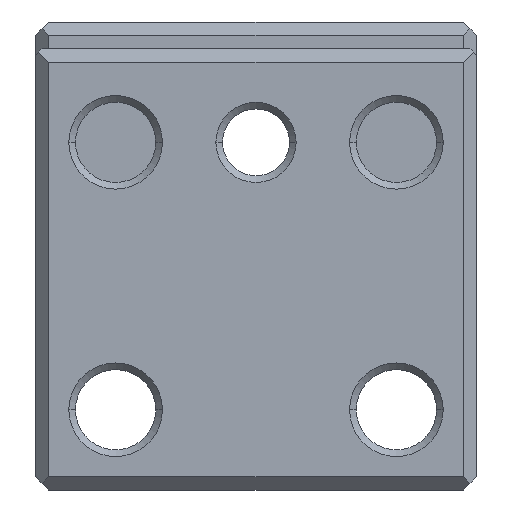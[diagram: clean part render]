
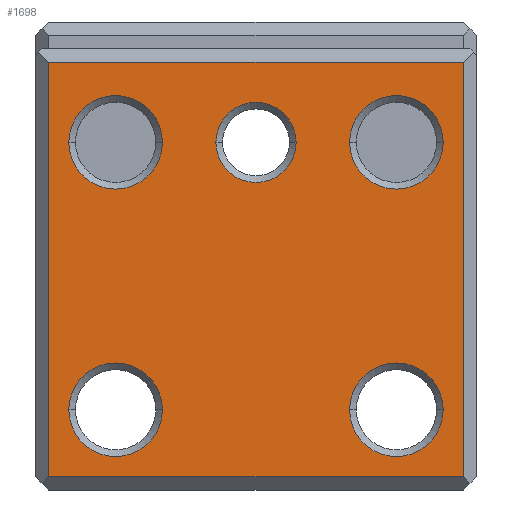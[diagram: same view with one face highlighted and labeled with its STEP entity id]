
A CAD part, front view. The second image highlights one B-rep face of the part: STEP entity #1698.
In plain terms, the highlighted planar face has unit normal (0, -1, 0).
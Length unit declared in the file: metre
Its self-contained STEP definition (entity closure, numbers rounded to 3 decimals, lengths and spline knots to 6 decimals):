
#1=CARTESIAN_POINT('',(-0.0105,0.,-0.0105));
#2=DIRECTION('',(0.,1.,0.));
#3=DIRECTION('',(-1.,0.,0.));
#4=AXIS2_PLACEMENT_3D('',#1,#2,#3);
#6=CARTESIAN_POINT('',(-0.0105,0.,-0.0105));
#7=DIRECTION('',(0.,1.,0.));
#8=DIRECTION('',(0.,0.,-1.));
#9=AXIS2_PLACEMENT_3D('',#6,#7,#8);
#11=CARTESIAN_POINT('',(-0.0105,0.,-0.0105));
#12=DIRECTION('',(0.,1.,0.));
#13=DIRECTION('',(1.,0.,0.));
#14=AXIS2_PLACEMENT_3D('',#11,#12,#13);
#16=CARTESIAN_POINT('',(-0.0105,0.,-0.0105));
#17=DIRECTION('',(0.,1.,0.));
#18=DIRECTION('',(0.,0.,1.));
#19=AXIS2_PLACEMENT_3D('',#16,#17,#18);
#21=CARTESIAN_POINT('',(-0.0105,0.,0.0095));
#22=DIRECTION('',(0.,1.,0.));
#23=DIRECTION('',(1.,0.,0.));
#24=AXIS2_PLACEMENT_3D('',#21,#22,#23);
#26=CARTESIAN_POINT('',(-0.0105,0.,0.0095));
#27=DIRECTION('',(0.,1.,0.));
#28=DIRECTION('',(0.,0.,1.));
#29=AXIS2_PLACEMENT_3D('',#26,#27,#28);
#31=CARTESIAN_POINT('',(-0.0105,0.,0.0095));
#32=DIRECTION('',(0.,1.,0.));
#33=DIRECTION('',(-1.,0.,0.));
#34=AXIS2_PLACEMENT_3D('',#31,#32,#33);
#36=CARTESIAN_POINT('',(-0.0105,0.,0.0095));
#37=DIRECTION('',(0.,1.,0.));
#38=DIRECTION('',(0.,0.,-1.));
#39=AXIS2_PLACEMENT_3D('',#36,#37,#38);
#41=CARTESIAN_POINT('',(0.0105,0.,-0.0105));
#42=DIRECTION('',(0.,1.,0.));
#43=DIRECTION('',(-1.,0.,0.));
#44=AXIS2_PLACEMENT_3D('',#41,#42,#43);
#46=CARTESIAN_POINT('',(0.0105,0.,-0.0105));
#47=DIRECTION('',(0.,1.,0.));
#48=DIRECTION('',(0.,0.,-1.));
#49=AXIS2_PLACEMENT_3D('',#46,#47,#48);
#51=CARTESIAN_POINT('',(0.0105,0.,-0.0105));
#52=DIRECTION('',(0.,1.,0.));
#53=DIRECTION('',(1.,0.,0.));
#54=AXIS2_PLACEMENT_3D('',#51,#52,#53);
#56=CARTESIAN_POINT('',(0.0105,0.,-0.0105));
#57=DIRECTION('',(0.,1.,0.));
#58=DIRECTION('',(0.,0.,1.));
#59=AXIS2_PLACEMENT_3D('',#56,#57,#58);
#61=CARTESIAN_POINT('',(0.0105,0.,0.0095));
#62=DIRECTION('',(0.,1.,0.));
#63=DIRECTION('',(-1.,0.,0.));
#64=AXIS2_PLACEMENT_3D('',#61,#62,#63);
#66=CARTESIAN_POINT('',(0.0105,0.,0.0095));
#67=DIRECTION('',(0.,1.,0.));
#68=DIRECTION('',(0.,0.,-1.));
#69=AXIS2_PLACEMENT_3D('',#66,#67,#68);
#71=CARTESIAN_POINT('',(0.0105,0.,0.0095));
#72=DIRECTION('',(0.,1.,0.));
#73=DIRECTION('',(1.,0.,0.));
#74=AXIS2_PLACEMENT_3D('',#71,#72,#73);
#76=CARTESIAN_POINT('',(0.0105,0.,0.0095));
#77=DIRECTION('',(0.,1.,0.));
#78=DIRECTION('',(0.,0.,1.));
#79=AXIS2_PLACEMENT_3D('',#76,#77,#78);
#81=CARTESIAN_POINT('',(0.,0.,0.0095));
#82=DIRECTION('',(0.,1.,0.));
#83=DIRECTION('',(-1.,0.,0.));
#84=AXIS2_PLACEMENT_3D('',#81,#82,#83);
#86=CARTESIAN_POINT('',(0.,0.,0.0095));
#87=DIRECTION('',(0.,1.,0.));
#88=DIRECTION('',(0.,0.,-1.));
#89=AXIS2_PLACEMENT_3D('',#86,#87,#88);
#91=CARTESIAN_POINT('',(0.,0.,0.0095));
#92=DIRECTION('',(0.,1.,0.));
#93=DIRECTION('',(1.,0.,0.));
#94=AXIS2_PLACEMENT_3D('',#91,#92,#93);
#96=CARTESIAN_POINT('',(0.,0.,0.0095));
#97=DIRECTION('',(0.,1.,0.));
#98=DIRECTION('',(0.,0.,1.));
#99=AXIS2_PLACEMENT_3D('',#96,#97,#98);
#878=DIRECTION('',(0.,0.,1.));
#879=VECTOR('',#878,0.031);
#880=CARTESIAN_POINT('',(-0.0155,0.,-0.0155));
#881=LINE('',#880,#879);
#1216=DIRECTION('',(0.,0.,-1.));
#1217=VECTOR('',#1216,0.031);
#1218=CARTESIAN_POINT('',(0.0155,0.,0.0155));
#1219=LINE('',#1218,#1217);
#1228=DIRECTION('',(1.,0.,0.));
#1229=VECTOR('',#1228,0.031);
#1230=CARTESIAN_POINT('',(-0.0155,0.,0.0155));
#1231=LINE('',#1230,#1229);
#1236=DIRECTION('',(-1.,0.,0.));
#1237=VECTOR('',#1236,0.031);
#1238=CARTESIAN_POINT('',(0.0155,0.,-0.0155));
#1239=LINE('',#1238,#1237);
#1253=CARTESIAN_POINT('',(0.0155,0.,0.0155));
#1254=CARTESIAN_POINT('',(0.0155,0.,-0.0155));
#1255=VERTEX_POINT('',#1253);
#1256=VERTEX_POINT('',#1254);
#1257=CARTESIAN_POINT('',(-0.0155,0.,-0.0155));
#1258=VERTEX_POINT('',#1257);
#1259=CARTESIAN_POINT('',(-0.0155,0.,0.0155));
#1260=VERTEX_POINT('',#1259);
#1261=CARTESIAN_POINT('',(0.003,0.,0.0095));
#1262=CARTESIAN_POINT('',(0.,0.,0.0065));
#1263=VERTEX_POINT('',#1261);
#1264=VERTEX_POINT('',#1262);
#1265=CARTESIAN_POINT('',(-0.003,0.,0.0095));
#1266=VERTEX_POINT('',#1265);
#1267=CARTESIAN_POINT('',(0.,0.,0.0125));
#1268=VERTEX_POINT('',#1267);
#1269=CARTESIAN_POINT('',(0.014,0.,0.0095));
#1270=CARTESIAN_POINT('',(0.0105,0.,0.006));
#1271=VERTEX_POINT('',#1269);
#1272=VERTEX_POINT('',#1270);
#1273=CARTESIAN_POINT('',(0.007,0.,0.0095));
#1274=VERTEX_POINT('',#1273);
#1275=CARTESIAN_POINT('',(0.0105,0.,0.013));
#1276=VERTEX_POINT('',#1275);
#1277=CARTESIAN_POINT('',(0.014,0.,-0.0105));
#1278=CARTESIAN_POINT('',(0.0105,0.,-0.014));
#1279=VERTEX_POINT('',#1277);
#1280=VERTEX_POINT('',#1278);
#1281=CARTESIAN_POINT('',(0.007,0.,-0.0105));
#1282=VERTEX_POINT('',#1281);
#1283=CARTESIAN_POINT('',(0.0105,0.,-0.007));
#1284=VERTEX_POINT('',#1283);
#1285=CARTESIAN_POINT('',(-0.014,0.,0.0095));
#1286=CARTESIAN_POINT('',(-0.0105,0.,0.013));
#1287=VERTEX_POINT('',#1285);
#1288=VERTEX_POINT('',#1286);
#1289=CARTESIAN_POINT('',(-0.007,0.,0.0095));
#1290=VERTEX_POINT('',#1289);
#1291=CARTESIAN_POINT('',(-0.0105,0.,0.006));
#1292=VERTEX_POINT('',#1291);
#1293=CARTESIAN_POINT('',(-0.007,0.,-0.0105));
#1294=CARTESIAN_POINT('',(-0.0105,0.,-0.014));
#1295=VERTEX_POINT('',#1293);
#1296=VERTEX_POINT('',#1294);
#1297=CARTESIAN_POINT('',(-0.014,0.,-0.0105));
#1298=VERTEX_POINT('',#1297);
#1299=CARTESIAN_POINT('',(-0.0105,0.,-0.007));
#1300=VERTEX_POINT('',#1299);
#1633=CARTESIAN_POINT('',(0.,0.,0.));
#1634=DIRECTION('',(0.,1.,0.));
#1635=DIRECTION('',(1.,0.,0.));
#1636=AXIS2_PLACEMENT_3D('',#1633,#1634,#1635);
#1637=PLANE('',#1636);
#1639=ORIENTED_EDGE('',*,*,#1638,.T.);
#1641=ORIENTED_EDGE('',*,*,#1640,.T.);
#1643=ORIENTED_EDGE('',*,*,#1642,.T.);
#1645=ORIENTED_EDGE('',*,*,#1644,.T.);
#1646=EDGE_LOOP('',(#1639,#1641,#1643,#1645));
#1647=FACE_OUTER_BOUND('',#1646,.F.);
#1649=ORIENTED_EDGE('',*,*,#1648,.F.);
#1651=ORIENTED_EDGE('',*,*,#1650,.F.);
#1653=ORIENTED_EDGE('',*,*,#1652,.F.);
#1655=ORIENTED_EDGE('',*,*,#1654,.F.);
#1656=EDGE_LOOP('',(#1649,#1651,#1653,#1655));
#1657=FACE_BOUND('',#1656,.F.);
#1659=ORIENTED_EDGE('',*,*,#1658,.F.);
#1661=ORIENTED_EDGE('',*,*,#1660,.F.);
#1663=ORIENTED_EDGE('',*,*,#1662,.F.);
#1665=ORIENTED_EDGE('',*,*,#1664,.F.);
#1666=EDGE_LOOP('',(#1659,#1661,#1663,#1665));
#1667=FACE_BOUND('',#1666,.F.);
#1669=ORIENTED_EDGE('',*,*,#1668,.F.);
#1671=ORIENTED_EDGE('',*,*,#1670,.F.);
#1673=ORIENTED_EDGE('',*,*,#1672,.F.);
#1675=ORIENTED_EDGE('',*,*,#1674,.F.);
#1676=EDGE_LOOP('',(#1669,#1671,#1673,#1675));
#1677=FACE_BOUND('',#1676,.F.);
#1679=ORIENTED_EDGE('',*,*,#1678,.F.);
#1681=ORIENTED_EDGE('',*,*,#1680,.F.);
#1683=ORIENTED_EDGE('',*,*,#1682,.F.);
#1685=ORIENTED_EDGE('',*,*,#1684,.F.);
#1686=EDGE_LOOP('',(#1679,#1681,#1683,#1685));
#1687=FACE_BOUND('',#1686,.F.);
#1689=ORIENTED_EDGE('',*,*,#1688,.F.);
#1691=ORIENTED_EDGE('',*,*,#1690,.F.);
#1693=ORIENTED_EDGE('',*,*,#1692,.F.);
#1695=ORIENTED_EDGE('',*,*,#1694,.F.);
#1696=EDGE_LOOP('',(#1689,#1691,#1693,#1695));
#1697=FACE_BOUND('',#1696,.F.);
#1698=ADVANCED_FACE('',(#1647,#1657,#1667,#1677,#1687,#1697),#1637,.F.);
#5=CIRCLE('',#4,0.0035);
#10=CIRCLE('',#9,0.0035);
#15=CIRCLE('',#14,0.0035);
#20=CIRCLE('',#19,0.0035);
#25=CIRCLE('',#24,0.0035);
#30=CIRCLE('',#29,0.0035);
#35=CIRCLE('',#34,0.0035);
#40=CIRCLE('',#39,0.0035);
#45=CIRCLE('',#44,0.0035);
#50=CIRCLE('',#49,0.0035);
#55=CIRCLE('',#54,0.0035);
#60=CIRCLE('',#59,0.0035);
#65=CIRCLE('',#64,0.0035);
#70=CIRCLE('',#69,0.0035);
#75=CIRCLE('',#74,0.0035);
#80=CIRCLE('',#79,0.0035);
#85=CIRCLE('',#84,0.003);
#90=CIRCLE('',#89,0.003);
#95=CIRCLE('',#94,0.003);
#100=CIRCLE('',#99,0.003);
#1638=EDGE_CURVE('',#1260,#1255,#1231,.T.);
#1640=EDGE_CURVE('',#1255,#1256,#1219,.T.);
#1642=EDGE_CURVE('',#1256,#1258,#1239,.T.);
#1644=EDGE_CURVE('',#1258,#1260,#881,.T.);
#1648=EDGE_CURVE('',#1290,#1292,#25,.T.);
#1650=EDGE_CURVE('',#1288,#1290,#30,.T.);
#1652=EDGE_CURVE('',#1287,#1288,#35,.T.);
#1654=EDGE_CURVE('',#1292,#1287,#40,.T.);
#1658=EDGE_CURVE('',#1282,#1284,#45,.T.);
#1660=EDGE_CURVE('',#1280,#1282,#50,.T.);
#1662=EDGE_CURVE('',#1279,#1280,#55,.T.);
#1664=EDGE_CURVE('',#1284,#1279,#60,.T.);
#1668=EDGE_CURVE('',#1274,#1276,#65,.T.);
#1670=EDGE_CURVE('',#1272,#1274,#70,.T.);
#1672=EDGE_CURVE('',#1271,#1272,#75,.T.);
#1674=EDGE_CURVE('',#1276,#1271,#80,.T.);
#1678=EDGE_CURVE('',#1266,#1268,#85,.T.);
#1680=EDGE_CURVE('',#1264,#1266,#90,.T.);
#1682=EDGE_CURVE('',#1263,#1264,#95,.T.);
#1684=EDGE_CURVE('',#1268,#1263,#100,.T.);
#1688=EDGE_CURVE('',#1298,#1300,#5,.T.);
#1690=EDGE_CURVE('',#1296,#1298,#10,.T.);
#1692=EDGE_CURVE('',#1295,#1296,#15,.T.);
#1694=EDGE_CURVE('',#1300,#1295,#20,.T.);
